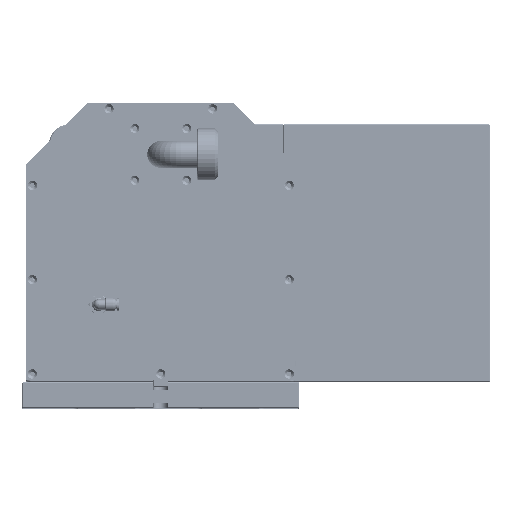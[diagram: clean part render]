
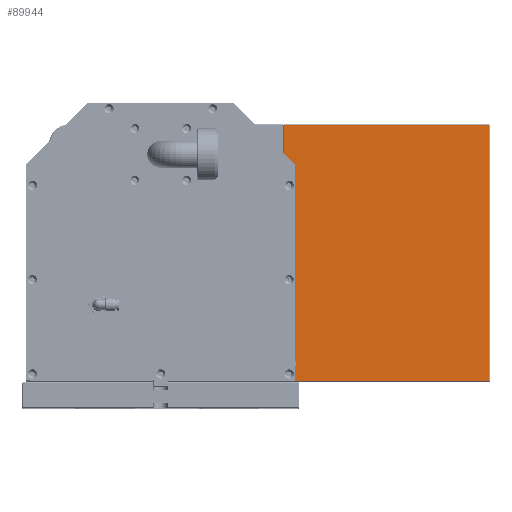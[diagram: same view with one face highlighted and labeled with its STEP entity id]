
A CAD part, top view. The second image highlights one B-rep face of the part: STEP entity #89944.
In plain terms, the highlighted planar face has unit normal (0, 0, 1).
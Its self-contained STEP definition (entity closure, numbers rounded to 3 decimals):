
#527 = VERTEX_POINT ( 'NONE', #6765 ) ;
#2066 = CARTESIAN_POINT ( 'NONE',  ( 301.246, 114.351, 308.004 ) ) ;
#3364 = VECTOR ( 'NONE', #92447, 1000. ) ;
#4898 = VERTEX_POINT ( 'NONE', #91798 ) ;
#5601 = EDGE_LOOP ( 'NONE', ( #64415, #83994, #49231, #29807 ) ) ;
#6765 = CARTESIAN_POINT ( 'NONE',  ( 102.246, 114.351, 308.004 ) ) ;
#12985 = VERTEX_POINT ( 'NONE', #52302 ) ;
#14401 = VERTEX_POINT ( 'NONE', #89845 ) ;
#22214 = FACE_OUTER_BOUND ( 'NONE', #5601, .T. ) ;
#23194 = CARTESIAN_POINT ( 'NONE',  ( 301.246, 115.351, 308.004 ) ) ;
#29807 = ORIENTED_EDGE ( 'NONE', *, *, #89956, .T. ) ;
#29848 = DIRECTION ( 'NONE',  ( 0., -1., 0. ) ) ;
#37189 = PLANE ( 'NONE',  #44817 ) ;
#39295 = CARTESIAN_POINT ( 'NONE',  ( 102.246, 115.351, 308.004 ) ) ;
#44666 = CARTESIAN_POINT ( 'NONE',  ( 300.246, 115.351, 308.004 ) ) ;
#44817 = AXIS2_PLACEMENT_3D ( 'NONE', #23194, #67594, #84496 ) ;
#45643 = LINE ( 'NONE', #44666, #3364 ) ;
#45786 = LINE ( 'NONE', #39295, #89342 ) ;
#49231 = ORIENTED_EDGE ( 'NONE', *, *, #77513, .T. ) ;
#52302 = CARTESIAN_POINT ( 'NONE',  ( 102.246, -132.649, 308.004 ) ) ;
#59067 = EDGE_CURVE ( 'NONE', #527, #12985, #45786, .T. ) ;
#60920 = VECTOR ( 'NONE', #86808, 1000. ) ;
#64415 = ORIENTED_EDGE ( 'NONE', *, *, #71072, .T. ) ;
#64863 = CARTESIAN_POINT ( 'NONE',  ( 301.246, -132.649, 308.004 ) ) ;
#67594 = DIRECTION ( 'NONE',  ( 0., 0., -1. ) ) ;
#70349 = LINE ( 'NONE', #2066, #91451 ) ;
#71072 = EDGE_CURVE ( 'NONE', #4898, #527, #70349, .T. ) ;
#71353 = DIRECTION ( 'NONE',  ( -1., 0., 0. ) ) ;
#71817 = LINE ( 'NONE', #64863, #60920 ) ;
#77513 = EDGE_CURVE ( 'NONE', #12985, #14401, #71817, .T. ) ;
#83994 = ORIENTED_EDGE ( 'NONE', *, *, #59067, .T. ) ;
#84496 = DIRECTION ( 'NONE',  ( 0., 1., 0. ) ) ;
#86808 = DIRECTION ( 'NONE',  ( 1., 0., 0. ) ) ;
#89342 = VECTOR ( 'NONE', #29848, 1000. ) ;
#89845 = CARTESIAN_POINT ( 'NONE',  ( 300.246, -132.649, 308.004 ) ) ;
#89944 = ADVANCED_FACE ( 'NONE', ( #22214 ), #37189, .F. ) ;
#89956 = EDGE_CURVE ( 'NONE', #14401, #4898, #45643, .T. ) ;
#91451 = VECTOR ( 'NONE', #71353, 1000. ) ;
#91798 = CARTESIAN_POINT ( 'NONE',  ( 300.246, 114.351, 308.004 ) ) ;
#92447 = DIRECTION ( 'NONE',  ( 0., 1., 0. ) ) ;
